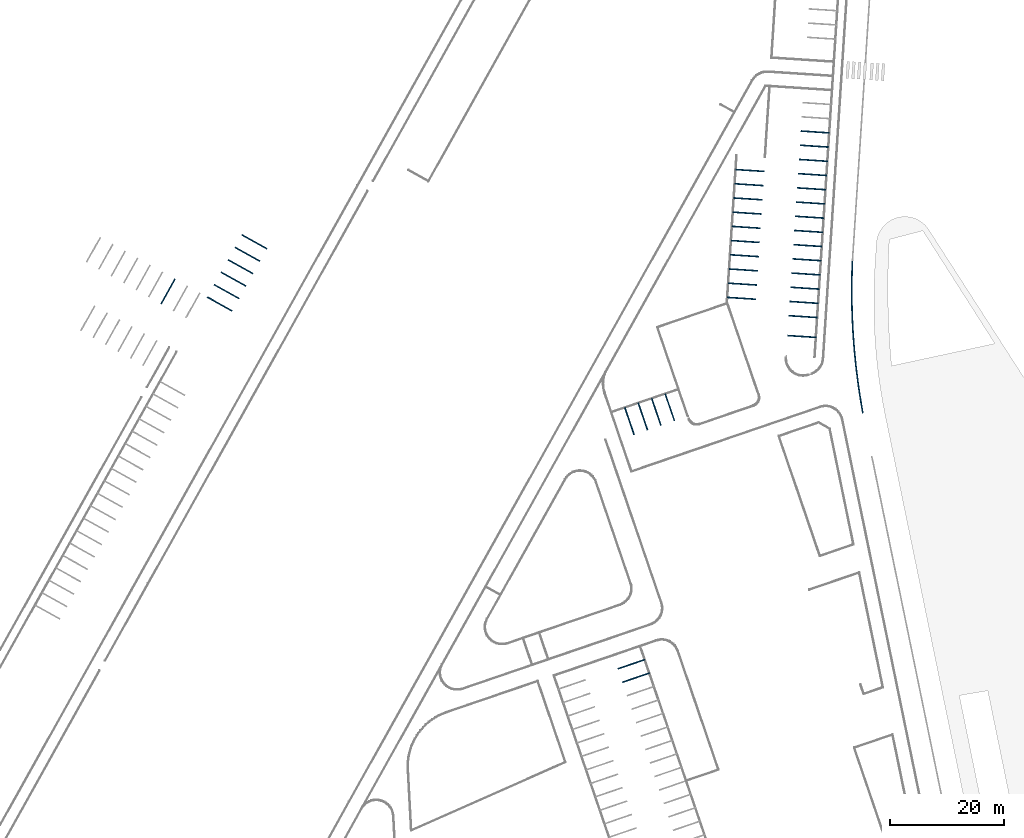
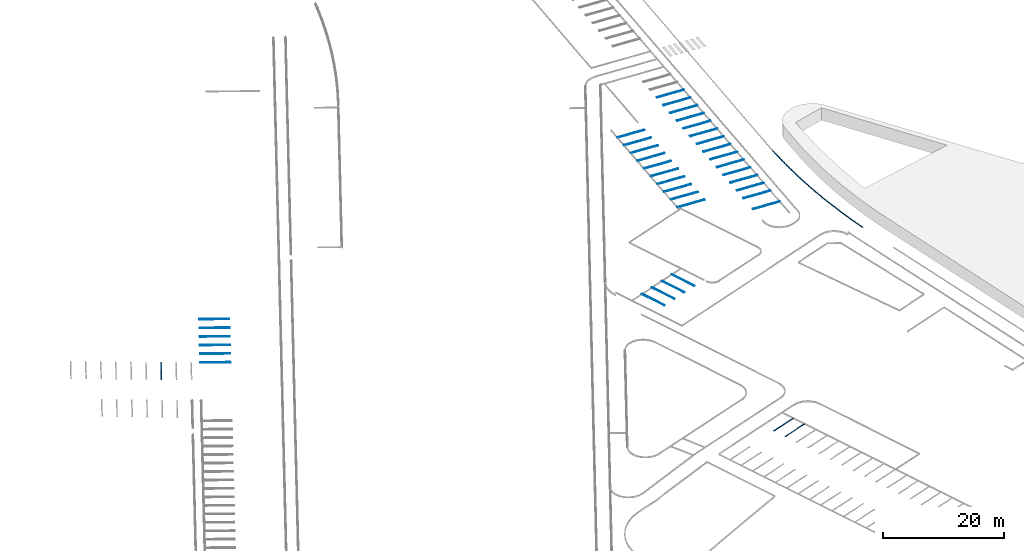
# One storey, part 80 of 112: 39 walls.
"""IFC2X3 building model written with IfcOpenShell, lengths in millimetres."""

from ifc_helpers import new_model, entity, si_unit, converted_unit, derived_unit, direction, frame, frame_2d, origin, origin_2d_with_axis, place, context, subcontext, project, spatial, polyline, circle_curve, parameter, trimmed, segment, composite_curve, rectangle, outline, extrude, material, type_object, element, save


model = new_model("IFC2X3")

# Units and contexts
model_context = context("Model", 3, precision=0.01, world=origin(), true_north=direction((6.123031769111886e-17, 1.0)))
body_context = subcontext(model_context, "Body", "Model", "MODEL_VIEW")
ifc_project = project(units=[si_unit("LENGTHUNIT", "METRE", prefix="MILLI"), si_unit("AREAUNIT", "SQUARE_METRE"), si_unit("VOLUMEUNIT", "CUBIC_METRE"), converted_unit("PLANEANGLEUNIT", "DEGREE", entity("IfcRatioMeasure", 0.017453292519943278), si_unit("PLANEANGLEUNIT", "RADIAN"), dimensions=[0, 0, 0, 0, 0, 0, 0]), si_unit("MASSUNIT", "GRAM", prefix="KILO"), derived_unit("MASSDENSITYUNIT", [(si_unit("MASSUNIT", "GRAM", prefix="KILO"), 1), (si_unit("LENGTHUNIT", "METRE"), -3)]), derived_unit("MOMENTOFINERTIAUNIT", [(si_unit("LENGTHUNIT", "METRE"), 4)]), si_unit("TIMEUNIT", "SECOND"), si_unit("FREQUENCYUNIT", "HERTZ"), si_unit("THERMODYNAMICTEMPERATUREUNIT", "DEGREE_CELSIUS"), derived_unit("THERMALTRANSMITTANCEUNIT", [(si_unit("MASSUNIT", "GRAM", prefix="KILO"), 1), (si_unit("THERMODYNAMICTEMPERATUREUNIT", "KELVIN"), -1), (si_unit("TIMEUNIT", "SECOND"), -3)]), derived_unit("THERMALCONDUCTANCEUNIT", [(si_unit("MASSUNIT", "GRAM", prefix="KILO"), 1), (si_unit("LENGTHUNIT", "METRE"), 1), (si_unit("THERMODYNAMICTEMPERATUREUNIT", "KELVIN"), -1), (si_unit("TIMEUNIT", "SECOND"), -3)]), derived_unit("VOLUMETRICFLOWRATEUNIT", [(si_unit("LENGTHUNIT", "METRE"), 3), (si_unit("TIMEUNIT", "SECOND"), -1)]), derived_unit("MASSFLOWRATEUNIT", [(si_unit("MASSUNIT", "GRAM", prefix="KILO"), 1), (si_unit("TIMEUNIT", "SECOND"), -1)]), derived_unit("ROTATIONALFREQUENCYUNIT", [(si_unit("TIMEUNIT", "SECOND"), -1)]), si_unit("ELECTRICCURRENTUNIT", "AMPERE"), si_unit("ELECTRICVOLTAGEUNIT", "VOLT"), si_unit("POWERUNIT", "WATT"), converted_unit("FORCEUNIT", "KIP", entity("IfcRatioMeasure", 2.088543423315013e-05), si_unit("FORCEUNIT", "NEWTON"), dimensions=[1, 1, -2, 0, 0, 0, 0]), si_unit("ILLUMINANCEUNIT", "LUX"), si_unit("LUMINOUSFLUXUNIT", "LUMEN"), si_unit("LUMINOUSINTENSITYUNIT", "CANDELA"), derived_unit("USERDEFINED", [(si_unit("MASSUNIT", "GRAM", prefix="KILO"), -1), (si_unit("LENGTHUNIT", "METRE"), -2), (si_unit("TIMEUNIT", "SECOND"), 3), (si_unit("LUMINOUSFLUXUNIT", "LUMEN"), 1)]), derived_unit("USERDEFINED", [(si_unit("MASSUNIT", "GRAM", prefix="KILO"), 1), (si_unit("LENGTHUNIT", "METRE"), 3), (si_unit("TIMEUNIT", "SECOND"), -3), (si_unit("ELECTRICCURRENTUNIT", "AMPERE"), -2)]), derived_unit("USERDEFINED", [(si_unit("LENGTHUNIT", "METRE"), 2), (si_unit("TIMEUNIT", "SECOND"), -2)]), derived_unit("SOUNDPOWERUNIT", [(si_unit("MASSUNIT", "GRAM", prefix="KILO"), 1), (si_unit("LENGTHUNIT", "METRE"), 2), (si_unit("TIMEUNIT", "SECOND"), -3)]), derived_unit("SOUNDPRESSUREUNIT", [(si_unit("MASSUNIT", "GRAM", prefix="KILO"), 1), (si_unit("LENGTHUNIT", "METRE"), -1), (si_unit("TIMEUNIT", "SECOND"), -2)]), derived_unit("LINEARVELOCITYUNIT", [(si_unit("LENGTHUNIT", "METRE"), 1), (si_unit("TIMEUNIT", "SECOND"), -1)]), si_unit("PRESSUREUNIT", "PASCAL"), derived_unit("USERDEFINED", [(si_unit("LENGTHUNIT", "METRE"), -2), (si_unit("MASSUNIT", "GRAM", prefix="KILO"), 1), (si_unit("TIMEUNIT", "SECOND"), -2)]), derived_unit("LINEARFORCEUNIT", [(si_unit("MASSUNIT", "GRAM", prefix="KILO"), 1), (si_unit("LENGTHUNIT", "METRE"), 1), (si_unit("TIMEUNIT", "SECOND"), -2), (si_unit("LENGTHUNIT", "METRE"), -1)]), derived_unit("PLANARFORCEUNIT", [(si_unit("MASSUNIT", "GRAM", prefix="KILO"), 1), (si_unit("LENGTHUNIT", "METRE"), 1), (si_unit("TIMEUNIT", "SECOND"), -2), (si_unit("LENGTHUNIT", "METRE"), -2)]), derived_unit("SPECIFICHEATCAPACITYUNIT", [(si_unit("LENGTHUNIT", "METRE"), 2), (si_unit("TIMEUNIT", "SECOND"), -2), (si_unit("THERMODYNAMICTEMPERATUREUNIT", "KELVIN"), -1)]), derived_unit("VAPORPERMEABILITYUNIT", [(si_unit("TIMEUNIT", "SECOND"), 1), (si_unit("LENGTHUNIT", "METRE"), -1)]), derived_unit("DYNAMICVISCOSITYUNIT", [(si_unit("MASSUNIT", "GRAM", prefix="KILO"), 1), (si_unit("LENGTHUNIT", "METRE"), -1), (si_unit("TIMEUNIT", "SECOND"), -1)]), derived_unit("THERMALEXPANSIONCOEFFICIENTUNIT", [(si_unit("THERMODYNAMICTEMPERATUREUNIT", "KELVIN"), -1)])], contexts=[model_context])

# Site, building, storey
site_placement = place(None, frame((0.0, 0.0, 0.0), z_axis=(0.0, 0.0, 1.0), x_axis=(0.8191520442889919, 0.5735764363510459, 0.0)))
site = spatial("IfcSite", under=ifc_project, at=site_placement, Name="Default", CompositionType="ELEMENT")
building_placement = place(site_placement, origin())
building = spatial("IfcBuilding", under=site, at=building_placement, CompositionType="ELEMENT")
storey_placement = place(building_placement, frame((0.0, 0.0, -3600.0)))
storey = spatial("IfcBuildingStorey", under=building, at=storey_placement, Name="0.UG -3.60", CompositionType="ELEMENT", Elevation=-3600.0000000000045)

# Walls
ifc_material = material(Name="road_markirovka")
wall_type_1 = type_object("IfcWallType", Name="08", PredefinedType="NOTDEFINED", material=ifc_material)
wall_1_placement = place(storey_placement, frame((95331.92043257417, 139881.61424605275, 1050.0)))
element("IfcWall", 1, at=wall_1_placement, inside=storey, type_object=wall_type_1, material=ifc_material, Name="08:08", ObjectType="08:08", context=body_context, shape_type="SweptSolid", body=[
    extrude(rectangle(XDim=200.00000000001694, YDim=5000.000000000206, at=frame_2d((5.4143356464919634e-12, -6.821210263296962e-12), x_axis=(1.0, 0.0))), frame((2012.4635614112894, 1642.5940192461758, 0.0), z_axis=(0.0, 0.0, 1.0), x_axis=(0.625839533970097, 0.7799518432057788, 0.0)), (0.0, 0.0, 1.0), 9.999999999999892),
])
wall_type_2 = type_object("IfcWallType", Name="13", PredefinedType="NOTDEFINED", material=ifc_material)
wall_2_placement = place(storey_placement, frame((122686.57672694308, 156395.93466855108, 1050.0)))
element("IfcWall", 2, at=wall_2_placement, inside=storey, type_object=wall_type_2, material=ifc_material, Name="13:13", ObjectType="13:13", context=body_context, shape_type="SweptSolid", body=[
    extrude(rectangle(XDim=199.9999999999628, YDim=5000.0000000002, at=frame_2d((5.4143356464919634e-12, -6.366462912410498e-12), x_axis=(1.0, 0.0))), frame((2012.463561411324, 1642.5940192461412, 0.0), z_axis=(0.0, 0.0, 1.0), x_axis=(0.6258395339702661, 0.7799518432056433, 0.0)), (0.0, 0.0, 1.0), 9.999999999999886),
])
wall_type_3 = type_object("IfcWallType", Name="12", PredefinedType="NOTDEFINED", material=ifc_material)
wall_3_placement = place(storey_placement, frame((121121.97789201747, 154446.05506053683, 1050.0)))
element("IfcWall", 3, at=wall_3_placement, inside=storey, type_object=wall_type_3, material=ifc_material, Name="12:12", ObjectType="12:12", context=body_context, shape_type="SweptSolid", body=[
    extrude(rectangle(XDim=200.00000000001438, YDim=5000.000000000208, at=frame_2d((5.4853899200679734e-12, -6.821210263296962e-12), x_axis=(1.0, 0.0))), frame((2012.463561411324, 1642.5940192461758, 0.0), z_axis=(0.0, 0.0, 1.0), x_axis=(0.6258395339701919, 0.7799518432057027, 0.0)), (0.0, 0.0, 1.0), 9.999999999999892),
])
wall_type_4 = type_object("IfcWallType", Name="11", PredefinedType="NOTDEFINED", material=ifc_material)
wall_4_placement = place(storey_placement, frame((119557.37905709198, 152496.17545252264, 1050.0)))
element("IfcWall", 4, at=wall_4_placement, inside=storey, type_object=wall_type_4, material=ifc_material, Name="11:11", ObjectType="11:11", context=body_context, shape_type="SweptSolid", body=[
    extrude(rectangle(XDim=200.00000000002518, YDim=5000.000000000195, at=frame_2d((-5.4143356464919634e-12, 6.821210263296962e-12), x_axis=(1.0, 0.0))), frame((2012.463561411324, 1642.5940192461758, 0.0), z_axis=(0.0, 0.0, 1.0), x_axis=(0.6258395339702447, 0.7799518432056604, 0.0)), (0.0, 0.0, 1.0), 9.999999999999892),
])
wall_type_5 = type_object("IfcWallType", Name="10", PredefinedType="NOTDEFINED", material=ifc_material)
wall_5_placement = place(storey_placement, frame((117992.78022216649, 150546.2958445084, 1050.0)))
element("IfcWall", 5, at=wall_5_placement, inside=storey, type_object=wall_type_5, material=ifc_material, Name="10:10", ObjectType="10:10", context=body_context, shape_type="SweptSolid", body=[
    extrude(rectangle(XDim=200.00000000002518, YDim=5000.000000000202, at=frame_2d((6.764366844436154e-12, 5.4569682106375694e-12), x_axis=(1.0, 0.0))), frame((2012.4635614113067, 1642.5940192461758, 0.0), z_axis=(0.0, 0.0, 1.0), x_axis=(0.6258395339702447, 0.7799518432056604, 0.0)), (0.0, 0.0, 1.0), 9.999999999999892),
])
wall_type_6 = type_object("IfcWallType", Name="08", PredefinedType="NOTDEFINED", material=ifc_material)
wall_6_placement = place(storey_placement, frame((114863.5825523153, 146646.53662848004, 1050.0)))
element("IfcWall", 6, at=wall_6_placement, inside=storey, type_object=wall_type_6, material=ifc_material, Name="08 204960:08 204960", ObjectType="08 204960:08 204960", context=body_context, shape_type="SweptSolid", body=[
    extrude(rectangle(XDim=200.00000000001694, YDim=5000.000000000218, at=frame_2d((-1.8950174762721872e-11, -4.320099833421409e-12), x_axis=(1.0, 0.0))), frame((2012.463561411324, 1642.594019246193, 0.0), z_axis=(0.0, 0.0, 1.0), x_axis=(0.625839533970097, 0.7799518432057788, 0.0)), (0.0, 0.0, 1.0), 9.999999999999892),
])
wall_type_7 = type_object("IfcWallType", Name="09", PredefinedType="NOTDEFINED", material=ifc_material)
wall_7_placement = place(storey_placement, frame((116428.18138724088, 148596.41623649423, 1050.0)))
element("IfcWall", 7, at=wall_7_placement, inside=storey, type_object=wall_type_7, material=ifc_material, Name="09 204961:09 204961", ObjectType="09 204961:09 204961", context=body_context, shape_type="SweptSolid", body=[
    extrude(rectangle(XDim=200.00000000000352, YDim=5000.000000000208, at=frame_2d((8.121503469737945e-12, 1.750777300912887e-11), x_axis=(1.0, 0.0))), frame((2012.463561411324, 1642.5940192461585, 0.0), z_axis=(0.0, 0.0, 1.0), x_axis=(0.6258395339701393, 0.7799518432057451, 0.0)), (0.0, 0.0, 1.0), 9.999999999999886),
])
wall_type_8 = type_object("IfcWallType", Name="16", PredefinedType="NOTDEFINED", material=ifc_material)
wall_8_placement = place(storey_placement, frame((113298.9837173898, 144696.65702046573, 1050.0)))
element("IfcWall", 8, at=wall_8_placement, inside=storey, type_object=wall_type_8, material=ifc_material, Name="16 204967:16 204967", ObjectType="16 204967:16 204967", context=body_context, shape_type="SweptSolid", body=[
    extrude(rectangle(XDim=199.99999999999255, YDim=5000.000000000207, at=frame_2d((-1.3571366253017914e-12, -1.2050804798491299e-11), x_axis=(1.0, 0.0))), frame((2012.4635614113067, 1642.5940192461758, 0.0), z_axis=(0.0, 0.0, 1.0), x_axis=(0.6258395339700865, 0.7799518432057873, 0.0)), (0.0, 0.0, 1.0), 9.999999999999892),
])
wall_type_9 = type_object("IfcWallType", Name="14", PredefinedType="NOTDEFINED", material=ifc_material)
wall_9_placement = place(storey_placement, frame((110169.78604753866, 140796.8978044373, 1050.0)))
element("IfcWall", 9, at=wall_9_placement, inside=storey, type_object=wall_type_9, material=ifc_material, Name="14 204968:14 204968", ObjectType="14 204968:14 204968", context=body_context, shape_type="SweptSolid", body=[
    extrude(rectangle(XDim=199.99999999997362, YDim=5000.0000000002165, at=frame_2d((1.3571366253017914e-12, 1.2050804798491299e-11), x_axis=(1.0, 0.0))), frame((2012.463561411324, 1642.5940192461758, 0.0), z_axis=(0.0, 0.0, 1.0), x_axis=(0.6258395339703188, 0.7799518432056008, 0.0)), (0.0, 0.0, 1.0), 9.999999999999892),
])
wall_type_10 = type_object("IfcWallType", Name="15", PredefinedType="NOTDEFINED", material=ifc_material)
wall_10_placement = place(storey_placement, frame((111734.38488246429, 142746.77741245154, 1050.0)))
element("IfcWall", 10, at=wall_10_placement, inside=storey, type_object=wall_type_10, material=ifc_material, Name="15 204970:15 204970", ObjectType="15 204970:15 204970", context=body_context, shape_type="SweptSolid", body=[
    extrude(rectangle(XDim=200.00000000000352, YDim=5000.000000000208, at=frame_2d((5.4143356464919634e-12, -6.821210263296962e-12), x_axis=(1.0, 0.0))), frame((2012.4635614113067, 1642.5940192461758, 0.0), z_axis=(0.0, 0.0, 1.0), x_axis=(0.6258395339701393, 0.7799518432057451, 0.0)), (0.0, 0.0, 1.0), 9.999999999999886),
])
wall_type_11 = type_object("IfcWallType", Name="12", PredefinedType="NOTDEFINED", material=ifc_material)
wall_11_placement = place(storey_placement, frame((107040.58837768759, 136897.13858840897, 1050.0)))
element("IfcWall", 11, at=wall_11_placement, inside=storey, type_object=wall_type_11, material=ifc_material, Name="12 204972:12 204972", ObjectType="12 204972:12 204972", context=body_context, shape_type="SweptSolid", body=[
    extrude(rectangle(XDim=199.99999999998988, YDim=5000.000000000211, at=frame_2d((5.4143356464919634e-12, -6.59383658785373e-12), x_axis=(1.0, 0.0))), frame((2012.463561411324, 1642.5940192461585, 0.0), z_axis=(0.0, 0.0, 1.0), x_axis=(0.6258395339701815, 0.7799518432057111, 0.0)), (0.0, 0.0, 1.0), 9.999999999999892),
])
wall_type_12 = type_object("IfcWallType", Name="11", PredefinedType="NOTDEFINED", material=ifc_material)
wall_12_placement = place(storey_placement, frame((105475.9895427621, 134947.25898039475, 1050.0)))
element("IfcWall", 12, at=wall_12_placement, inside=storey, type_object=wall_type_12, material=ifc_material, Name="11 204975:11 204975", ObjectType="11 204975:11 204975", context=body_context, shape_type="SweptSolid", body=[
    extrude(rectangle(XDim=200.0000000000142, YDim=5000.0000000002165, at=frame_2d((6.764366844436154e-12, 5.4569682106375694e-12), x_axis=(1.0, 0.0))), frame((2012.4635614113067, 1642.5940192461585, 0.0), z_axis=(0.0, 0.0, 1.0), x_axis=(0.6258395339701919, 0.7799518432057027, 0.0)), (0.0, 0.0, 1.0), 9.999999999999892),
])
wall_type_13 = type_object("IfcWallType", Name="10", PredefinedType="NOTDEFINED", material=ifc_material)
wall_13_placement = place(storey_placement, frame((103911.39070783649, 132997.3793723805, 1050.0)))
element("IfcWall", 13, at=wall_13_placement, inside=storey, type_object=wall_type_13, material=ifc_material, Name="10 204976:10 204976", ObjectType="10 204976:10 204976", context=body_context, shape_type="SweptSolid", body=[
    extrude(rectangle(XDim=200.00000000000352, YDim=5000.000000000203, at=frame_2d((1.2185807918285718e-11, -9.094947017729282e-13), x_axis=(1.0, 0.0))), frame((2012.4635614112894, 1642.5940192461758, 0.0), z_axis=(0.0, 0.0, 1.0), x_axis=(0.6258395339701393, 0.7799518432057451, 0.0)), (0.0, 0.0, 1.0), 9.999999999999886),
])
wall_type_14 = type_object("IfcWallType", Name="13", PredefinedType="NOTDEFINED", material=ifc_material)
wall_14_placement = place(storey_placement, frame((108605.1872126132, 138847.01819642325, 1050.0)))
element("IfcWall", 14, at=wall_14_placement, inside=storey, type_object=wall_type_14, material=ifc_material, Name="13 204979:13 204979", ObjectType="13 204979:13 204979", context=body_context, shape_type="SweptSolid", body=[
    extrude(rectangle(XDim=200.00000000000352, YDim=5000.000000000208, at=frame_2d((1.3500311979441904e-12, 1.2050804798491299e-11), x_axis=(1.0, 0.0))), frame((2012.463561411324, 1642.5940192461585, 0.0), z_axis=(0.0, 0.0, 1.0), x_axis=(0.6258395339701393, 0.7799518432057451, 0.0)), (0.0, 0.0, 1.0), 9.999999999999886),
])
wall_type_15 = type_object("IfcWallType", Name="08", PredefinedType="NOTDEFINED", material=ifc_material)
wall_15_placement = place(storey_placement, frame((100156.35357311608, 128317.66839926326, 1050.0)))
element("IfcWall", 15, at=wall_15_placement, inside=storey, type_object=wall_type_15, material=ifc_material, Name="08 204980:08 204980", ObjectType="08 204980:08 204980", context=body_context, shape_type="SweptSolid", body=[
    extrude(rectangle(XDim=199.99999999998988, YDim=5000.000000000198, at=frame_2d((5.4143356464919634e-12, -6.59383658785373e-12), x_axis=(1.0, 0.0))), frame((2012.4635614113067, 1642.5940192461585, 0.0), z_axis=(0.0, 0.0, 1.0), x_axis=(0.6258395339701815, 0.7799518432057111, 0.0)), (0.0, 0.0, 1.0), 9.999999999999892),
])
wall_type_16 = type_object("IfcWallType", Name="09", PredefinedType="NOTDEFINED", material=ifc_material)
wall_16_placement = place(storey_placement, frame((102346.79187291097, 131047.49976436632, 1050.0)))
element("IfcWall", 16, at=wall_16_placement, inside=storey, type_object=wall_type_16, material=ifc_material, Name="09 204981:09 204981", ObjectType="09 204981:09 204981", context=body_context, shape_type="SweptSolid", body=[
    extrude(rectangle(XDim=199.99999999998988, YDim=5000.00000000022, at=frame_2d((1.3500311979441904e-12, 1.2050804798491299e-11), x_axis=(1.0, 0.0))), frame((2012.463561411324, 1642.5940192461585, 0.0), z_axis=(0.0, 0.0, 1.0), x_axis=(0.6258395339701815, 0.7799518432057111, 0.0)), (0.0, 0.0, 1.0), 9.99999999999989),
])
wall_type_17 = type_object("IfcWallType", Name="16", PredefinedType="NOTDEFINED", material=ifc_material)
wall_17_placement = place(storey_placement, frame((109413.30994690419, 157430.53071818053, 1050.0)))
element("IfcWall", 17, at=wall_17_placement, inside=storey, type_object=wall_type_17, material=ifc_material, Name="16 204984:16 204984", ObjectType="16 204984:16 204984", context=body_context, shape_type="SweptSolid", body=[
    extrude(rectangle(XDim=200.00000000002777, YDim=5000.000000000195, at=frame_2d((-5.4143356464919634e-12, 6.821210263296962e-12), x_axis=(1.0, 0.0))), frame((2012.463561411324, 1642.5940192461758, 0.0), z_axis=(0.0, 0.0, 1.0), x_axis=(0.6258395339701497, 0.7799518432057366, 0.0)), (0.0, 0.0, 1.0), 9.999999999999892),
])
wall_type_18 = type_object("IfcWallType", Name="14", PredefinedType="NOTDEFINED", material=ifc_material)
wall_18_placement = place(storey_placement, frame((106284.1122770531, 153530.77150215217, 1050.0)))
element("IfcWall", 18, at=wall_18_placement, inside=storey, type_object=wall_type_18, material=ifc_material, Name="14 204985:14 204985", ObjectType="14 204985:14 204985", context=body_context, shape_type="SweptSolid", body=[
    extrude(rectangle(XDim=200.00000000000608, YDim=5000.000000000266, at=origin_2d_with_axis()), frame((2012.463561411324, 1642.5940192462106, 0.0), z_axis=(0.0, 0.0, 1.0), x_axis=(0.6258395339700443, 0.7799518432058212, 0.0)), (0.0, 0.0, 1.0), 9.999999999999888),
])
wall_type_19 = type_object("IfcWallType", Name="13", PredefinedType="NOTDEFINED", material=ifc_material)
wall_19_placement = place(storey_placement, frame((104719.51344212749, 151580.89189413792, 1050.0)))
element("IfcWall", 19, at=wall_19_placement, inside=storey, type_object=wall_type_19, material=ifc_material, Name="13 204987:13 204987", ObjectType="13 204987:13 204987", context=body_context, shape_type="SweptSolid", body=[
    extrude(rectangle(XDim=200.00000000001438, YDim=5000.000000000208, at=origin_2d_with_axis()), frame((2012.463561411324, 1642.5940192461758, 0.0), z_axis=(0.0, 0.0, 1.0), x_axis=(0.6258395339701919, 0.7799518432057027, 0.0)), (0.0, 0.0, 1.0), 9.999999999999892),
])
wall_type_20 = type_object("IfcWallType", Name="15", PredefinedType="NOTDEFINED", material=ifc_material)
wall_20_placement = place(storey_placement, frame((107848.71111197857, 155480.65111016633, 1050.0)))
element("IfcWall", 20, at=wall_20_placement, inside=storey, type_object=wall_type_20, material=ifc_material, Name="15 204989:15 204989", ObjectType="15 204989:15 204989", context=body_context, shape_type="SweptSolid", body=[
    extrude(rectangle(XDim=200.00000000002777, YDim=5000.000000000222, at=frame_2d((5.4143356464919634e-12, -6.821210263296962e-12), x_axis=(1.0, 0.0))), frame((2012.463561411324, 1642.5940192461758, 0.0), z_axis=(0.0, 0.0, 1.0), x_axis=(0.6258395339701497, 0.7799518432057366, 0.0)), (0.0, 0.0, 1.0), 9.999999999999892),
])
wall_type_21 = type_object("IfcWallType", Name="12", PredefinedType="NOTDEFINED", material=ifc_material)
wall_21_placement = place(storey_placement, frame((103154.91460720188, 149631.01228612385, 1050.0)))
element("IfcWall", 21, at=wall_21_placement, inside=storey, type_object=wall_type_21, material=ifc_material, Name="12 204991:12 204991", ObjectType="12 204991:12 204991", context=body_context, shape_type="SweptSolid", body=[
    extrude(rectangle(XDim=200.00000000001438, YDim=5000.000000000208, at=origin_2d_with_axis()), frame((2012.463561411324, 1642.5940192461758, 0.0), z_axis=(0.0, 0.0, 1.0), x_axis=(0.6258395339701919, 0.7799518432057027, 0.0)), (0.0, 0.0, 1.0), 9.999999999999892),
])
wall_type_22 = type_object("IfcWallType", Name="11", PredefinedType="NOTDEFINED", material=ifc_material)
wall_22_placement = place(storey_placement, frame((101590.31577227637, 147681.13267810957, 1050.0)))
element("IfcWall", 22, at=wall_22_placement, inside=storey, type_object=wall_type_22, material=ifc_material, Name="11 204993:11 204993", ObjectType="11 204993:11 204993", context=body_context, shape_type="SweptSolid", body=[
    extrude(rectangle(XDim=200.00000000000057, YDim=5000.000000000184, at=frame_2d((-5.4143356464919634e-12, 6.821210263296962e-12), x_axis=(1.0, 0.0))), frame((2012.463561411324, 1642.5940192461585, 0.0), z_axis=(0.0, 0.0, 1.0), x_axis=(0.6258395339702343, 0.7799518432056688, 0.0)), (0.0, 0.0, 1.0), 9.999999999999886),
])
wall_type_23 = type_object("IfcWallType", Name="10", PredefinedType="NOTDEFINED", material=ifc_material)
wall_23_placement = place(storey_placement, frame((100025.7169373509, 145731.2530700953, 1050.0)))
element("IfcWall", 23, at=wall_23_placement, inside=storey, type_object=wall_type_23, material=ifc_material, Name="10 204996:10 204996", ObjectType="10 204996:10 204996", context=body_context, shape_type="SweptSolid", body=[
    extrude(rectangle(XDim=200.00000000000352, YDim=5000.000000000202, at=frame_2d((-6.771472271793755e-12, -5.4569682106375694e-12), x_axis=(1.0, 0.0))), frame((2012.4635614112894, 1642.594019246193, 0.0), z_axis=(0.0, 0.0, 1.0), x_axis=(0.6258395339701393, 0.7799518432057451, 0.0)), (0.0, 0.0, 1.0), 9.999999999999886),
])
wall_type_24 = type_object("IfcWallType", Name="09", PredefinedType="NOTDEFINED", material=ifc_material)
wall_24_placement = place(storey_placement, frame((98461.11810242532, 143781.37346208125, 1050.0)))
element("IfcWall", 24, at=wall_24_placement, inside=storey, type_object=wall_type_24, material=ifc_material, Name="09 204997:09 204997", ObjectType="09 204997:09 204997", context=body_context, shape_type="SweptSolid", body=[
    extrude(rectangle(XDim=200.00000000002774, YDim=5000.000000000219, at=frame_2d((-1.3535839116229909e-11, -1.0913936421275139e-11), x_axis=(1.0, 0.0))), frame((2012.463561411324, 1642.594019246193, 0.0), z_axis=(0.0, 0.0, 1.0), x_axis=(0.6258395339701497, 0.7799518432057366, 0.0)), (0.0, 0.0, 1.0), 9.999999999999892),
])
wall_type_25 = type_object("IfcWallType", Name="08", PredefinedType="NOTDEFINED", material=ifc_material)
wall_25_placement = place(storey_placement, frame((96896.51926749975, 141831.49385406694, 1050.0)))
element("IfcWall", 25, at=wall_25_placement, inside=storey, type_object=wall_type_25, material=ifc_material, Name="08 204998:08 204998", ObjectType="08 204998:08 204998", context=body_context, shape_type="SweptSolid", body=[
    extrude(rectangle(XDim=200.00000000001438, YDim=5000.000000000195, at=origin_2d_with_axis()), frame((2012.4635614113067, 1642.5940192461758, 0.0), z_axis=(0.0, 0.0, 1.0), x_axis=(0.6258395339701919, 0.7799518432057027, 0.0)), (0.0, 0.0, 1.0), 9.999999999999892),
])
wall_type_26 = type_object("IfcWallType", Name="07", PredefinedType="NOTDEFINED", material=ifc_material)
wall_26_placement = place(storey_placement, frame((75253.3146420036, 130640.001382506, 1550.0), z_axis=(0.0, 0.0, 1.0), x_axis=(0.0, 1.0, 0.0)))
element("IfcWall", 26, at=wall_26_placement, inside=storey, type_object=wall_type_26, material=ifc_material, Name="07 205001:07 205001", ObjectType="07 205001:07 205001", context=body_context, shape_type="SweptSolid", body=[
    extrude(rectangle(XDim=199.99999999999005, YDim=5000.015012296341, at=frame_2d((-6.636469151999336e-12, 7.275957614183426e-12), x_axis=(1.0, 0.0))), frame((2429.5871082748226, -789.7618676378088, 0.0), z_axis=(0.0, 0.0, 1.0), x_axis=(-0.2774745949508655, -0.9607329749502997, 0.0)), (0.0, 0.0, 1.0), 9.999999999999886),
])
wall_type_27 = type_object("IfcWallType", Name="06", PredefinedType="NOTDEFINED", material=ifc_material)
wall_27_placement = place(storey_placement, frame((72851.50562931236, 131333.66547931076, 1550.0), z_axis=(0.0, 0.0, 1.0), x_axis=(0.0, 1.0, 0.0)))
element("IfcWall", 27, at=wall_27_placement, inside=storey, type_object=wall_type_27, material=ifc_material, Name="06 205003:06 205003", ObjectType="06 205003:06 205003", context=body_context, shape_type="SweptSolid", body=[
    extrude(rectangle(XDim=199.9999999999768, YDim=5000.030023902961, at=frame_2d((1.0757617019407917e-11, -5.6843418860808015e-12), x_axis=(1.0, 0.0))), frame((2429.5943193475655, -789.7639503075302, 0.0), z_axis=(0.0, 0.0, 1.0), x_axis=(-0.27747459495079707, -0.9607329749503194, 0.0)), (0.0, 0.0, 1.0), 9.999999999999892),
])
wall_type_28 = type_object("IfcWallType", Name="05", PredefinedType="NOTDEFINED", material=ifc_material)
wall_28_placement = place(storey_placement, frame((70449.69661662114, 132027.32957611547, 1550.0), z_axis=(0.0, 0.0, 1.0), x_axis=(0.0, 1.0, 0.0)))
element("IfcWall", 28, at=wall_28_placement, inside=storey, type_object=wall_type_28, material=ifc_material, Name="05 205004:05 205004", ObjectType="05 205004:05 205004", context=body_context, shape_type="SweptSolid", body=[
    extrude(rectangle(XDim=199.9999999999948, YDim=5000.0450355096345, at=frame_2d((-2.4371615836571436e-12, 8.412825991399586e-12), x_axis=(1.0, 0.0))), frame((2429.6015304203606, -789.7660329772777, 0.0), z_axis=(0.0, 0.0, 1.0), x_axis=(-0.2774745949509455, -0.9607329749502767, 0.0)), (0.0, 0.0, 1.0), 9.999999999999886),
])
wall_type_29 = type_object("IfcWallType", Name="04", PredefinedType="NOTDEFINED", material=ifc_material)
wall_29_placement = place(storey_placement, frame((42200.46792719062, 99197.09301154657, 2050.0)))
element("IfcWall", 29, at=wall_29_placement, inside=storey, type_object=wall_type_29, material=ifc_material, Name="04 205009:04 205009", ObjectType="04 205009:04 205009", context=body_context, shape_type="SweptSolid", body=[
    extrude(rectangle(XDim=199.99999999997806, YDim=5000.000000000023, at=origin_2d_with_axis()), frame((2429.5798968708, 789.7597848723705, 0.0), z_axis=(0.0, 0.0, 1.0), x_axis=(0.27747459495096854, 0.9607329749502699, 0.0)), (0.0, 0.0, 1.0), 9.999999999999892),
])
wall_type_30 = type_object("IfcWallType", Name="04", PredefinedType="NOTDEFINED", material=ifc_material)
wall_30_placement = place(storey_placement, frame((68047.88760392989, 132720.9936729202, 1550.0), z_axis=(0.0, 0.0, 1.0), x_axis=(0.0, 1.0, 0.0)))
element("IfcWall", 30, at=wall_30_placement, inside=storey, type_object=wall_type_30, material=ifc_material, Name="04 205010:04 205010", ObjectType="04 205010:04 205010", context=body_context, shape_type="SweptSolid", body=[
    extrude(rectangle(XDim=199.9999999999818, YDim=5000.060047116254, at=frame_2d((4.128253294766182e-12, 1.3642420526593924e-12), x_axis=(1.0, 0.0))), frame((2429.6087414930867, -789.7681156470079, 0.0), z_axis=(0.0, 0.0, 1.0), x_axis=(-0.27747459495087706, -0.9607329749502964, 0.0)), (0.0, 0.0, 1.0), 9.999999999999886),
])
wall_type_31 = type_object("IfcWallType", Name="04", PredefinedType="NOTDEFINED", material=ifc_material)
wall_31_placement = place(storey_placement, frame((41506.78143981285, 96795.26057417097, 2050.0)))
element("IfcWall", 31, at=wall_31_placement, inside=storey, type_object=wall_type_31, material=ifc_material, Name="04 205032:04 205032", ObjectType="04 205032:04 205032", context=body_context, shape_type="SweptSolid", body=[
    extrude(rectangle(XDim=199.99999999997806, YDim=5000.000000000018, at=frame_2d((8.327560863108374e-12, 2.5011104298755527e-12), x_axis=(1.0, 0.0))), frame((2429.5798968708, 789.7597848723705, 0.0), z_axis=(0.0, 0.0, 1.0), x_axis=(0.27747459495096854, 0.9607329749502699, 0.0)), (0.0, 0.0, 1.0), 9.999999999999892),
])
wall_type_32 = type_object("IfcWallType", Name="04", PredefinedType="NOTDEFINED", material=ifc_material)
wall_32_placement = place(storey_placement, frame((103151.5311240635, 112754.73267992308, 950.0), z_axis=(0.0, 0.0, 1.0), x_axis=(0.0, 1.0, 0.0)))
element("IfcWall", 32, at=wall_32_placement, inside=storey, type_object=wall_type_32, material=ifc_material, Name="04 206377:04 206377", ObjectType="04 206377:04 206377", context=body_context, shape_type="SweptSolid", body=[
    extrude(outline(composite_curve([segment(polyline([(-1593.1837293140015, -13280.374626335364), (-1393.1837293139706, -13280.374626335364)]), True, "CONTINUOUS"), segment(trimmed(circle_curve(frame_2d((118115.63912715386, -13280.374626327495), x_axis=(-1.0, 0.0)), 119508.82285646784), [parameter(347.17027183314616)], [parameter(0.0)], True, "PARAMETER"), False, "CONTINUOUS"), segment(polyline([(1590.4410787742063, 13257.088709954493), (1395.926379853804, 13303.6605427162)]), True, "CONTINUOUS"), segment(trimmed(circle_curve(frame_2d((118115.63912715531, -13280.37462632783), x_axis=(-0.9750301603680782, 0.22207247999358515)), 119708.8228564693), [parameter(0.0)], [parameter(12.830788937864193)], True, "PARAMETER"), True, "CONTINUOUS")], self_intersect=False)), frame((11490.076390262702, -6985.274880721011, 0.0), z_axis=(0.0, 0.0, 1.0), x_axis=(-0.41694451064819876, -0.9089319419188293, 0.0)), (0.0, 0.0, 1.0), 9.99999999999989),
])
wall_type_33 = type_object("IfcWallType", Name="05", PredefinedType="NOTDEFINED", material=ifc_material)
wall_33_placement = place(storey_placement, frame((13226.712641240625, 199120.1799737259, 1700.0)))
element("IfcWall", 33, at=wall_33_placement, inside=storey, type_object=wall_type_33, material=ifc_material, Name="05 206916:05 206916", ObjectType="05 206916:05 206916", context=body_context, shape_type="SweptSolid", body=[
    extrude(rectangle(XDim=200.00000000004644, YDim=5000.000000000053, at=frame_2d((9.521272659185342e-13, 1.8189894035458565e-12), x_axis=(1.0, 0.0))), frame((2294.3681594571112, 1178.003194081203, 0.0), z_axis=(0.0, 0.0, 1.0), x_axis=(-0.4351876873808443, 0.9003397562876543, 0.0)), (0.0, 0.0, 1.0), 9.999999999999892),
])
wall_type_34 = type_object("IfcWallType", Name="05", PredefinedType="NOTDEFINED", material=ifc_material)
wall_34_placement = place(storey_placement, frame((20510.616183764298, 190988.72642021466, 1560.0), z_axis=(0.0, 0.0, 1.0), x_axis=(0.0, 1.0, 0.0)))
element("IfcWall", 34, at=wall_34_placement, inside=storey, type_object=wall_type_34, material=ifc_material, Name="05 206947:05 206947", ObjectType="05 206947:05 206947", context=body_context, shape_type="SweptSolid", body=[
    extrude(rectangle(XDim=199.99999999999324, YDim=5000.000000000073, at=frame_2d((-3.922195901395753e-12, 2.0463630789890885e-12), x_axis=(1.0, 0.0))), frame((2294.368159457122, -1178.0031940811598, 0.0), z_axis=(0.0, 0.0, 1.0), x_axis=(0.43518768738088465, -0.9003397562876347, 0.0)), (0.0, 0.0, 1.0), 9.999999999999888),
])
wall_type_35 = type_object("IfcWallType", Name="05", PredefinedType="NOTDEFINED", material=ifc_material)
wall_35_placement = place(storey_placement, frame((22761.46557448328, 192076.69563866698, 1580.0), z_axis=(0.0, 0.0, 1.0), x_axis=(0.0, 1.0, 0.0)))
element("IfcWall", 35, at=wall_35_placement, inside=storey, type_object=wall_type_35, material=ifc_material, Name="05 206948:05 206948", ObjectType="05 206948:05 206948", context=body_context, shape_type="SweptSolid", body=[
    extrude(rectangle(XDim=200.00000000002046, YDim=5000.0000000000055, at=frame_2d((-2.7000623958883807e-13, 1.9326762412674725e-11), x_axis=(1.0, 0.0))), frame((2294.3681594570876, -1178.003194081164, 0.0), z_axis=(0.0, 0.0, 1.0), x_axis=(0.43518768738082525, -0.9003397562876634, 0.0)), (0.0, 0.0, 1.0), 9.999999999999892),
])
wall_type_36 = type_object("IfcWallType", Name="05", PredefinedType="NOTDEFINED", material=ifc_material)
wall_36_placement = place(storey_placement, frame((25012.314965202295, 193164.66485711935, 1570.0), z_axis=(0.0, 0.0, 1.0), x_axis=(0.0, 1.0, 0.0)))
element("IfcWall", 36, at=wall_36_placement, inside=storey, type_object=wall_type_36, material=ifc_material, Name="05 206949:05 206949", ObjectType="05 206949:05 206949", context=body_context, shape_type="SweptSolid", body=[
    extrude(rectangle(XDim=200.00000000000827, YDim=5000.000000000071, at=frame_2d((-1.9610979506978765e-12, 1.1368683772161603e-12), x_axis=(1.0, 0.0))), frame((2294.368159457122, -1178.0031940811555, 0.0), z_axis=(0.0, 0.0, 1.0), x_axis=(0.4351876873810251, -0.9003397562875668, 0.0)), (0.0, 0.0, 1.0), 9.999999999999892),
])
wall_type_37 = type_object("IfcWallType", Name="05", PredefinedType="NOTDEFINED", material=ifc_material)
wall_37_placement = place(storey_placement, frame((27263.164355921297, 194252.63407557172, 1550.0), z_axis=(0.0, 0.0, 1.0), x_axis=(0.0, 1.0, 0.0)))
element("IfcWall", 37, at=wall_37_placement, inside=storey, type_object=wall_type_37, material=ifc_material, Name="05 206951:05 206951", ObjectType="05 206951:05 206951", context=body_context, shape_type="SweptSolid", body=[
    extrude(rectangle(XDim=200.00000000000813, YDim=5000.000000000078, at=frame_2d((-9.478640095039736e-12, -1.4551915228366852e-11), x_axis=(1.0, 0.0))), frame((2294.3681594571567, -1178.0031940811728, 0.0), z_axis=(0.0, 0.0, 1.0), x_axis=(0.4351876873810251, -0.9003397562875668, 0.0)), (0.0, 0.0, 1.0), 9.999999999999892),
])
wall_type_38 = type_object("IfcWallType", Name="05", PredefinedType="NOTDEFINED", material=ifc_material)
wall_38_placement = place(storey_placement, frame((29514.01374664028, 195340.6032940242, 1560.0), z_axis=(0.0, 0.0, 1.0), x_axis=(0.0, 1.0, 0.0)))
element("IfcWall", 38, at=wall_38_placement, inside=storey, type_object=wall_type_38, material=ifc_material, Name="05 206954:05 206954", ObjectType="05 206954:05 206954", context=body_context, shape_type="SweptSolid", body=[
    extrude(rectangle(XDim=199.9999999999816, YDim=5000.000000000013, at=frame_2d((9.407585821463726e-12, 1.4551915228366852e-11), x_axis=(1.0, 0.0))), frame((2294.3681594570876, -1178.003194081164, 0.0), z_axis=(0.0, 0.0, 1.0), x_axis=(0.4351876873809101, -0.9003397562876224, 0.0)), (0.0, 0.0, 1.0), 9.999999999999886),
])
wall_type_39 = type_object("IfcWallType", Name="05", PredefinedType="NOTDEFINED", material=ifc_material)
wall_39_placement = place(storey_placement, frame((31764.86313735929, 196428.5725124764, 1580.0), z_axis=(0.0, 0.0, 1.0), x_axis=(0.0, 1.0, 0.0)))
element("IfcWall", 39, at=wall_39_placement, inside=storey, type_object=wall_type_39, material=ifc_material, Name="05 206957:05 206957", ObjectType="05 206957:05 206957", context=body_context, shape_type="SweptSolid", body=[
    extrude(rectangle(XDim=200.00000000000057, YDim=5000.000000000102, at=frame_2d((-5.6203930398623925e-12, -1.6825651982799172e-11), x_axis=(1.0, 0.0))), frame((2294.3681594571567, -1178.0031940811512, 0.0), z_axis=(0.0, 0.0, 1.0), x_axis=(0.43518768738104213, -0.9003397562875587, 0.0)), (0.0, 0.0, 1.0), 9.999999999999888),
])

save(model, "model.ifc")
